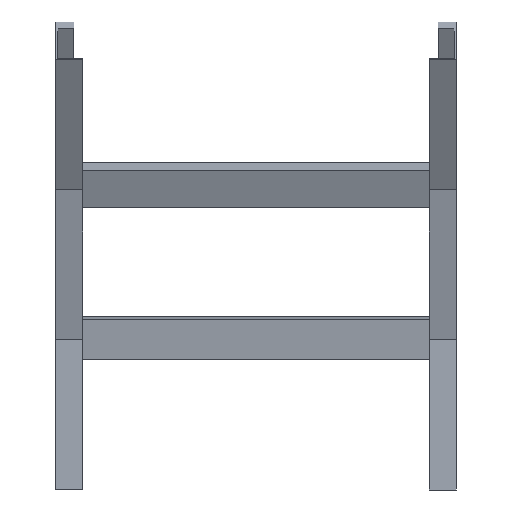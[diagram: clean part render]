
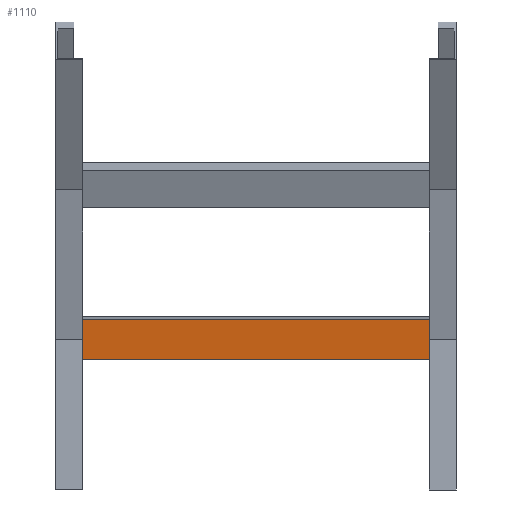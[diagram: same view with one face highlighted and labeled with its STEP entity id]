
A CAD part, front view. The second image highlights one B-rep face of the part: STEP entity #1110.
In plain terms, the highlighted planar face has unit normal (0, -0.991, -0.131) as drawn and (0, -1, 0) by its records, which use the part's own axes.
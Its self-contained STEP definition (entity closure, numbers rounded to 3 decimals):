
#10 = DIRECTION ( 'NONE',  ( -1., 0., 0. ) ) ;
#93 = VECTOR ( 'NONE', #603, 1000. ) ;
#122 = ORIENTED_EDGE ( 'NONE', *, *, #154, .F. ) ;
#127 = CARTESIAN_POINT ( 'NONE',  ( 198., 0., -20.25 ) ) ;
#147 = CARTESIAN_POINT ( 'NONE',  ( -198., 0., 20.25 ) ) ;
#154 = EDGE_CURVE ( 'NONE', #375, #519, #166, .T. ) ;
#166 = LINE ( 'NONE', #1431, #733 ) ;
#239 = ORIENTED_EDGE ( 'NONE', *, *, #486, .T. ) ;
#298 = CARTESIAN_POINT ( 'NONE',  ( 198., 0., 20.25 ) ) ;
#375 = VERTEX_POINT ( 'NONE', #298 ) ;
#391 = DIRECTION ( 'NONE',  ( 0., 0., -1. ) ) ;
#486 = EDGE_CURVE ( 'NONE', #375, #1247, #676, .T. ) ;
#519 = VERTEX_POINT ( 'NONE', #127 ) ;
#557 = EDGE_CURVE ( 'NONE', #1247, #637, #726, .T. ) ;
#603 = DIRECTION ( 'NONE',  ( 0., 0., -1. ) ) ;
#637 = VERTEX_POINT ( 'NONE', #1044 ) ;
#650 = FACE_OUTER_BOUND ( 'NONE', #1248, .T. ) ;
#676 = LINE ( 'NONE', #1139, #1323 ) ;
#678 = VECTOR ( 'NONE', #10, 1000. ) ;
#726 = LINE ( 'NONE', #147, #93 ) ;
#733 = VECTOR ( 'NONE', #391, 1000. ) ;
#754 = DIRECTION ( 'NONE',  ( 0., 1., 0. ) ) ;
#787 = ORIENTED_EDGE ( 'NONE', *, *, #557, .T. ) ;
#869 = DIRECTION ( 'NONE',  ( 0., 0., 1. ) ) ;
#877 = PLANE ( 'NONE',  #1062 ) ;
#913 = DIRECTION ( 'NONE',  ( -1., 0., 0. ) ) ;
#1027 = EDGE_CURVE ( 'NONE', #519, #637, #1191, .T. ) ;
#1044 = CARTESIAN_POINT ( 'NONE',  ( -198., 0., -20.25 ) ) ;
#1062 = AXIS2_PLACEMENT_3D ( 'NONE', #1078, #754, #869 ) ;
#1078 = CARTESIAN_POINT ( 'NONE',  ( 198., 0., 20.25 ) ) ;
#1110 = ADVANCED_FACE ( 'NONE', ( #650 ), #877, .F. ) ;
#1139 = CARTESIAN_POINT ( 'NONE',  ( 198., 0., 20.25 ) ) ;
#1191 = LINE ( 'NONE', #1291, #678 ) ;
#1247 = VERTEX_POINT ( 'NONE', #1405 ) ;
#1248 = EDGE_LOOP ( 'NONE', ( #787, #1290, #122, #239 ) ) ;
#1290 = ORIENTED_EDGE ( 'NONE', *, *, #1027, .F. ) ;
#1291 = CARTESIAN_POINT ( 'NONE',  ( 198., 0., -20.25 ) ) ;
#1323 = VECTOR ( 'NONE', #913, 1000. ) ;
#1405 = CARTESIAN_POINT ( 'NONE',  ( -198., 0., 20.25 ) ) ;
#1431 = CARTESIAN_POINT ( 'NONE',  ( 198., 0., 20.25 ) ) ;
